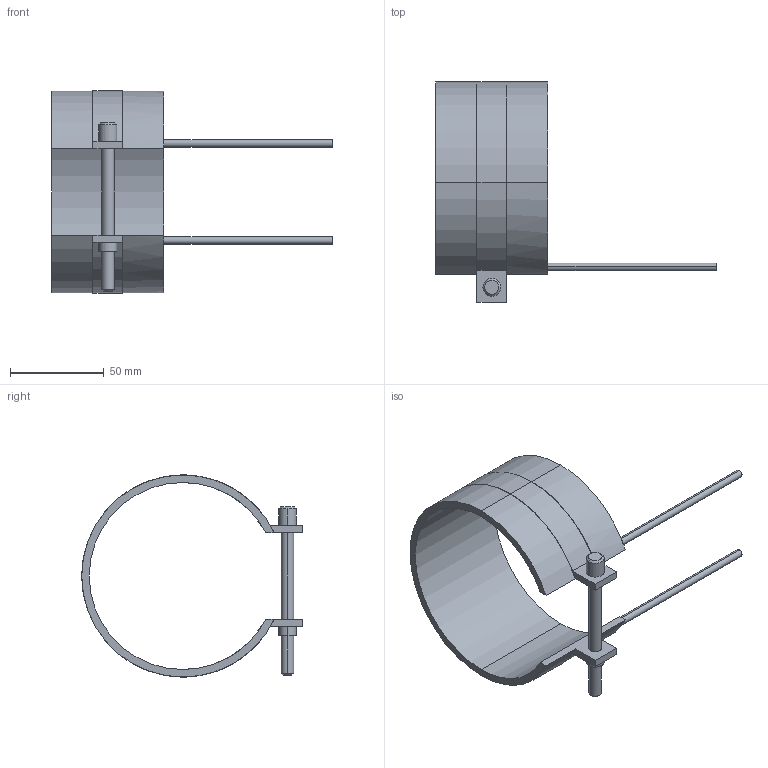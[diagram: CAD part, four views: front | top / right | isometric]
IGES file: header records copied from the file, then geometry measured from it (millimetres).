
Start section: START RECORD GO HERE.
Global section: file name: 14100060.igs; native system: DASSAULT SYSTEMES CATIA V5 R20 - www.3ds.com; preprocessor: CATIA Version 5 Release 20 ; author: Utente; organization: NB04-ASUS; date: 20210406.180114; units: millimetre
Bounding box: 150 x 118.1 x 108.2 mm (x, y, z)
Surface area: 41608.9 mm2 (no closed solid volume)
Topology: 0 solids, 0 shells, 45 faces, 232 edges, 232 vertices
Faces by surface type: revolution 28, plane 17
